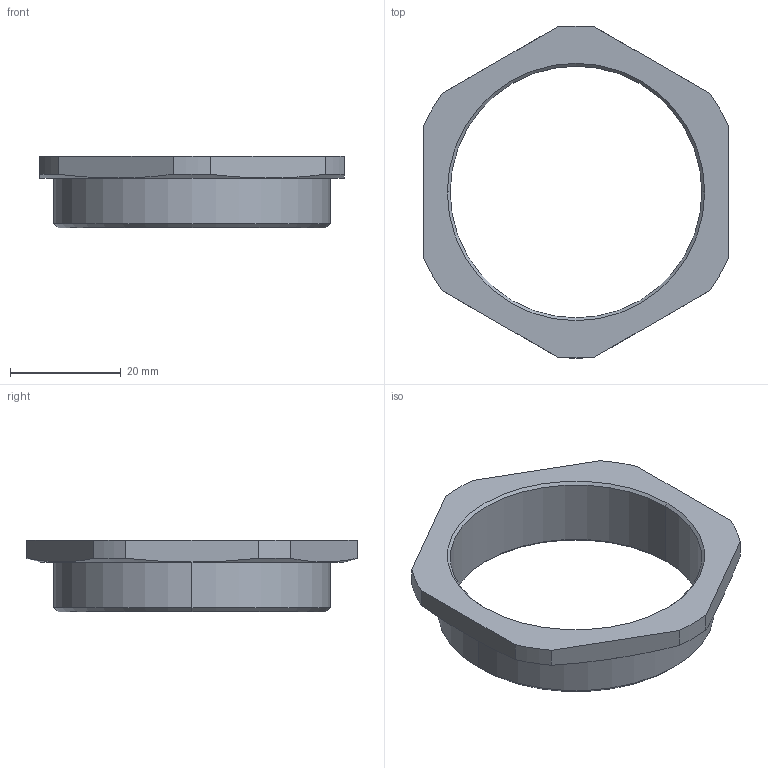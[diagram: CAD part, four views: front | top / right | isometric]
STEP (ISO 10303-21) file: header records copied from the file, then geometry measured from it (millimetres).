
FILE_DESCRIPTION (( 'STEP AP203' ), '1' );
FILE_NAME ('M50PG36-OM.STEP', '2006-05-22T11:52:13', ( ' ' ), ( '' ), 'SwSTEP 2.0', 'SolidWorks 2005278', '' );
FILE_SCHEMA (( 'CONFIG_CONTROL_DESIGN' ));
Length unit declared in the file: millimetre
Products named in the file (1): M50PG36-OM
Bounding box: 55 x 59.96 x 13 mm (x, y, z)
Volume: 6746.9 mm3; surface area: 5719.9 mm2
Topology: 1 solids, 1 shells, 64 faces, 168 edges, 110 vertices
Faces by surface type: plane 46, cylinder 10, cone 8
Entity records: 2069 total; most frequent: CARTESIAN_POINT 395, ORIENTED_EDGE 336, DIRECTION 318, EDGE_CURVE 168, VECTOR 132, LINE 132, VERTEX_POINT 110, AXIS2_PLACEMENT_3D 93
